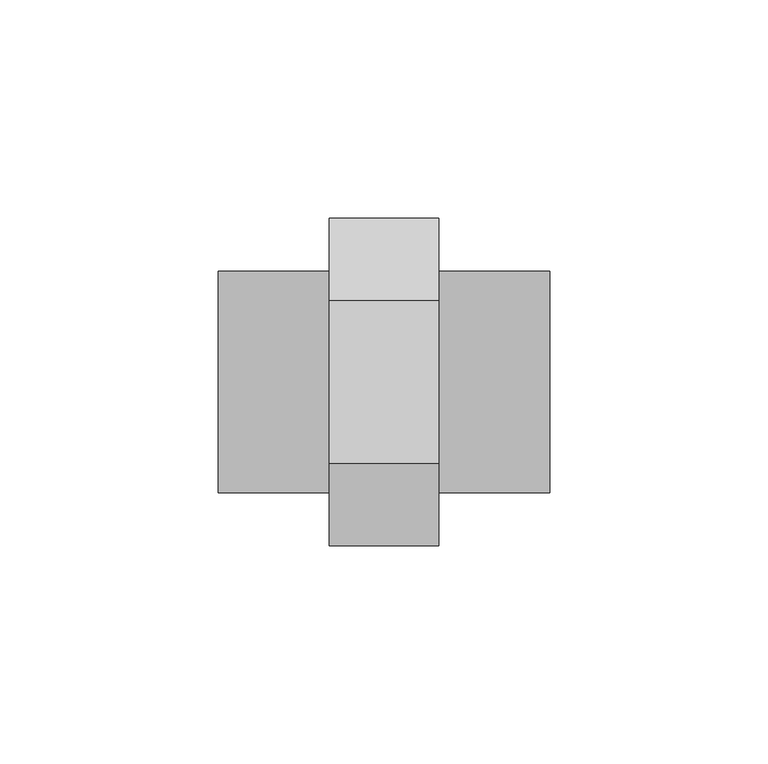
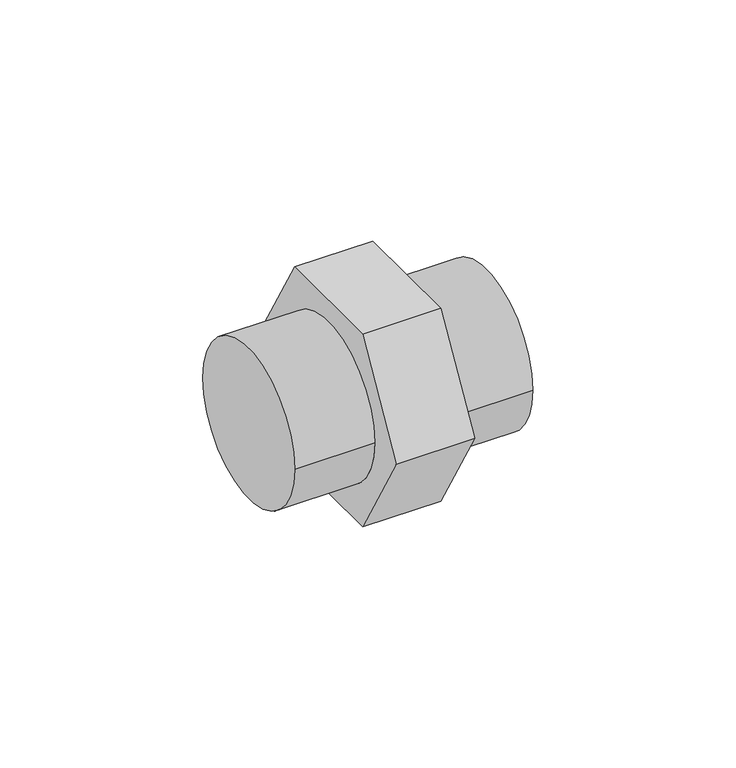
"""IFC4 building model written with IfcOpenShell, lengths in millimetres: pipe fitting geometry, 01011009 : Mamelons doubles."""

from ifc_helpers import new_model, si_unit, frame, origin, place, context, project, spatial, circle_curve, source, transform, mapped, element, save
from ifc_brep_helpers import plane_surface, cylinder_surface, advanced_brep


def pipe_fitting_9fb98cf9(model_context):
    return source(origin(), model_context, "Body", "AdvancedBrep", [
        advanced_brep(
        [(12.5, -18.7638837, 32.5), (12.5, -37.5277675, 0.0), (12.5, -18.7638837, -32.5), (12.5, 18.7638837, -32.5), (12.5, 37.5277675, 0.0), (12.5, 18.7638837, 32.5), (12.5, -25.4, 0.0), (12.5, 25.4, 0.0), (-12.5, -18.7638837, 32.5), (-12.5, 18.7638837, 32.5), (-12.5, 37.5277675, 0.0), (-12.5, 18.7638837, -32.5), (-12.5, -18.7638837, -32.5), (-12.5, -37.5277675, 0.0), (-12.5, 25.4, 0.0), (-12.5, -25.4, 0.0), (-38.0, -25.4, 0.0), (-38.0, 25.4, 0.0), (38.0, -25.4, 0.0), (38.0, 25.4, 0.0)],
        [
            (0, 1),
            (1, 2),
            (2, 3),
            (3, 4),
            (4, 5),
            (5, 0),
            (6, 7, circle_curve(frame((12.5, 0.0, 0.0), z_axis=(-1.0, 0.0, 0.0), x_axis=(0.0, 1.0, 0.0)), 25.4)),
            (7, 6, circle_curve(frame((12.5, 0.0, 0.0), z_axis=(-1.0, 0.0, 0.0), x_axis=(0.0, 1.0, 0.0)), 25.4)),
            (8, 9),
            (9, 10),
            (10, 11),
            (11, 12),
            (12, 13),
            (13, 8),
            (14, 15, circle_curve(frame((-12.5, 0.0, 0.0), z_axis=(1.0, 0.0, 0.0), x_axis=(0.0, 1.0, 0.0)), 25.4)),
            (15, 14, circle_curve(frame((-12.5, 0.0, 0.0), z_axis=(1.0, 0.0, 0.0), x_axis=(0.0, 1.0, 0.0)), 25.4)),
            (0, 8),
            (13, 1),
            (12, 2),
            (11, 3),
            (10, 4),
            (9, 5),
            (16, 17, circle_curve(frame((-38.0, 0.0, 0.0), z_axis=(-1.0, 0.0, 0.0), x_axis=(0.0, 1.0, 0.0)), 25.4)),
            (17, 16, circle_curve(frame((-38.0, 0.0, 0.0), z_axis=(-1.0, 0.0, 0.0), x_axis=(0.0, 1.0, 0.0)), 25.4)),
            (18, 19, circle_curve(frame((38.0, 0.0, 0.0), z_axis=(1.0, 0.0, 0.0), x_axis=(0.0, 1.0, 0.0)), 25.4)),
            (19, 18, circle_curve(frame((38.0, 0.0, 0.0), z_axis=(1.0, 0.0, 0.0), x_axis=(0.0, 1.0, 0.0)), 25.4)),
            (16, 15),
            (14, 17),
            (19, 7),
            (6, 18),
        ],
        [
            plane_surface(frame((12.5, -18.7638837, 32.5), z_axis=(1.0, 0.0, 0.0), x_axis=(0.0, -0.5000000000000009, -0.8660254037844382))),
            plane_surface(frame((-12.5, -18.7638837, 32.5), z_axis=(-1.0, 0.0, 0.0), x_axis=(0.0, 0.5000000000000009, 0.8660254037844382))),
            plane_surface(frame((12.5, -18.7638837, 32.5), z_axis=(0.0, -0.8660254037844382, 0.5000000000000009), x_axis=(-1.0, 0.0, 0.0))),
            plane_surface(frame((12.5, -37.5277675, 0.0), z_axis=(0.0, -0.866025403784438, -0.5000000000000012), x_axis=(-1.0, 0.0, 0.0))),
            plane_surface(frame((12.5, -18.7638837, -32.5), z_axis=(0.0, 0.0, -1.0), x_axis=(-1.0, 0.0, 0.0))),
            plane_surface(frame((12.5, 18.7638837, -32.5), z_axis=(0.0, 0.8660254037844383, -0.5000000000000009), x_axis=(-1.0, 0.0, 0.0))),
            plane_surface(frame((12.5, 37.5277675, 0.0), z_axis=(0.0, 0.8660254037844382, 0.500000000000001), x_axis=(-1.0, 0.0, 0.0))),
            plane_surface(frame((12.5, 18.7638837, 32.5), z_axis=(0.0, 0.0, 1.0), x_axis=(-1.0, 0.0, 0.0))),
            plane_surface(frame((-38.0, 0.0, 0.0), z_axis=(-1.0, 0.0, 0.0), x_axis=(0.0, 0.0, 1.0))),
            plane_surface(frame((38.0, 0.0, 0.0), z_axis=(1.0, 0.0, 0.0), x_axis=(0.0, 0.0, 1.0))),
            cylinder_surface(frame((-38.0, 0.0, 0.0), z_axis=(-1.0, 0.0, 0.0), x_axis=(0.0, 1.0, 0.0)), 25.4),
        ],
        [
            (0, [[1, 2, 3, 4, 5, 6], [7, 8]]),
            (1, [[9, 10, 11, 12, 13, 14], [15, 16]]),
            (2, [[-1, 17, -14, 18]]),
            (3, [[-2, -18, -13, 19]]),
            (4, [[-3, -19, -12, 20]]),
            (5, [[-4, -20, -11, 21]]),
            (6, [[-5, -21, -10, 22]]),
            (7, [[-6, -22, -9, -17]]),
            (8, [[23, 24]]),
            (9, [[25, 26]]),
            (10, [[-23, 27, -15, 28]]),
            (10, [[-26, 29, -7, 30]]),
            (10, [[-24, -28, -16, -27]]),
            (10, [[-25, -30, -8, -29]]),
        ],
    ),
    ])


if __name__ == "__main__":
    model = new_model("IFC4")
    model_context = context("Model", 3, world=origin())
    ifc_project = project(units=[si_unit("LENGTHUNIT", "METRE", prefix="MILLI")], contexts=[model_context])
    site = spatial("IfcSite", under=ifc_project)
    building = spatial("IfcBuilding", under=site)
    placement = place(None, origin())
    pipe_fitting_shape = pipe_fitting_9fb98cf9(model_context)
    element("IfcPipeFitting", 1, ObjectType="01011009 : Mamelons doubles", at=placement, inside=building, context=model_context, shape_type="MappedRepresentation", body=[
        mapped(pipe_fitting_shape, transform((0.0, 0.0, 0.0), x_axis=(1.0, 0.0, 0.0), y_axis=(0.0, 1.0, 0.0), z_axis=(0.0, 0.0, 1.0))),
    ])
    save(model, "model.ifc")
